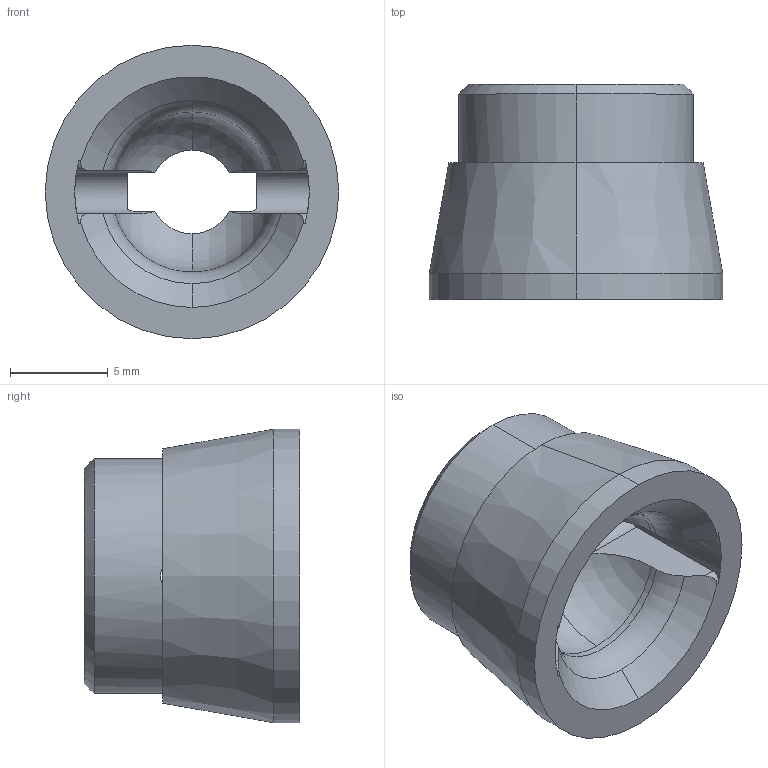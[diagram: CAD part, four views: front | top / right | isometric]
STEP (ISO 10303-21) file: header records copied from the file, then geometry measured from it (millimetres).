
FILE_DESCRIPTION (( 'STEP AP214' ), '1' );
FILE_NAME ('M44_×àøêà äèôôåðåíöèàëà.STEP', '2019-03-21T14:04:53', ( '' ), ( '' ), 'SwSTEP 2.0', 'SolidWorks 2018', '' );
FILE_SCHEMA (( 'AUTOMOTIVE_DESIGN' ));
Length unit declared in the file: millimetre
Products named in the file (1): M44_×àøêà äèôôåðåíöèàëà
Bounding box: 15 x 11 x 15 mm (x, y, z)
Volume: 950 mm3; surface area: 1000.2 mm2
Topology: 1 solids, 1 shells, 59 faces, 158 edges, 98 vertices
Faces by surface type: cylinder 22, plane 17, cone 11, torus 5, sphere 4
Entity records: 2001 total; most frequent: CARTESIAN_POINT 488, ORIENTED_EDGE 316, DIRECTION 313, EDGE_CURVE 158, AXIS2_PLACEMENT_3D 123, VERTEX_POINT 98, LINE 67, VECTOR 67
